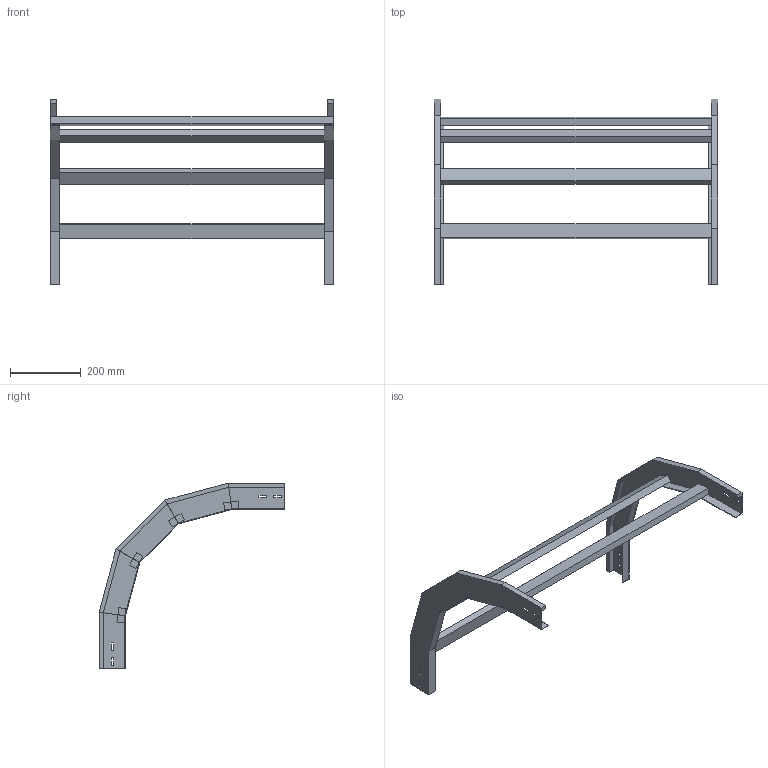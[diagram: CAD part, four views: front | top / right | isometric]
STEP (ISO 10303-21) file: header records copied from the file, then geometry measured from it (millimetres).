
FILE_DESCRIPTION (( 'STEP AP214' ), '1' );
FILE_NAME ('A2_33B3C800.step', '2025-02-21T15:05:46', ( '' ), ( '' ), 'SwSTEP 2.0', 'SolidWorks 2023', '' );
FILE_SCHEMA (( 'AUTOMOTIVE_DESIGN' ));
Length unit declared in the file: millimetre
Products named in the file (3): TRAVERSINO_800; A2_33B3C800; LONGH.DISCESA_90°_H75_R300
Assembly tree (6 placements, depth 2):
  A2_33B3C800
    LONGH.DISCESA_90°_H75_R300  x2
    TRAVERSINO_800  x4
Bounding box: 800 x 524.44 x 524.44 mm (x, y, z)
Volume: 3236829.3 mm3; surface area: 778536 mm2
Topology: 6 solids, 6 shells, 140 faces, 320 edges, 192 vertices
Faces by surface type: plane 140
Entity records: 1872 total; most frequent: CARTESIAN_POINT 309, ORIENTED_EDGE 296, DIRECTION 294, LINE 148, EDGE_CURVE 148, VECTOR 148, VERTEX_POINT 88, AXIS2_PLACEMENT_3D 73
